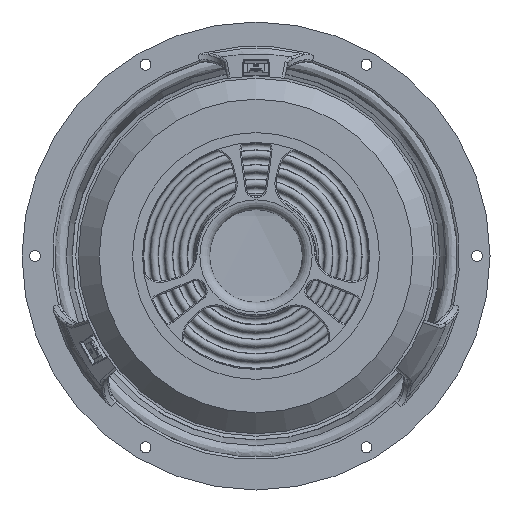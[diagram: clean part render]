
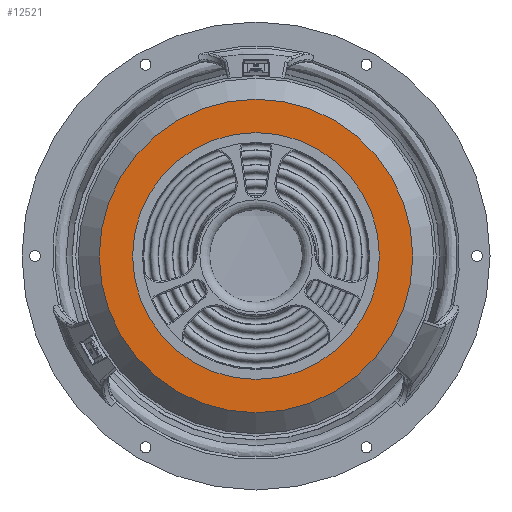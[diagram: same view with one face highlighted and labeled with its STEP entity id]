
A CAD part, front view. The second image highlights one B-rep face of the part: STEP entity #12521.
In plain terms, the highlighted planar face has unit normal (0, -1, 0).
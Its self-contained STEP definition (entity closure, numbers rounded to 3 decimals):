
#1797 = AXIS2_PLACEMENT_3D ( 'NONE', #3504, #5311, #30069 ) ;
#2589 = PLANE ( 'NONE',  #13090 ) ;
#3328 = CARTESIAN_POINT ( 'NONE',  ( 0., -32.5, -50. ) ) ;
#3504 = CARTESIAN_POINT ( 'NONE',  ( 0., -32.5, 0. ) ) ;
#5311 = DIRECTION ( 'NONE',  ( 0., -1., 0. ) ) ;
#5721 = DIRECTION ( 'NONE',  ( 0., -1., 0. ) ) ;
#8180 = EDGE_LOOP ( 'NONE', ( #9323 ) ) ;
#8482 = EDGE_CURVE ( 'NONE', #15600, #15600, #9715, .T. ) ;
#8774 = CARTESIAN_POINT ( 'NONE',  ( 0., -32.5, 0. ) ) ;
#9323 = ORIENTED_EDGE ( 'NONE', *, *, #19458, .F. ) ;
#9715 = CIRCLE ( 'NONE', #1797, 63.5 ) ;
#11808 = FACE_BOUND ( 'NONE', #8180, .T. ) ;
#12521 = ADVANCED_FACE ( 'NONE', ( #34958, #11808 ), #2589, .T. ) ;
#12930 = VERTEX_POINT ( 'NONE', #3328 ) ;
#13090 = AXIS2_PLACEMENT_3D ( 'NONE', #19492, #5721, #13529 ) ;
#13529 = DIRECTION ( 'NONE',  ( 0., 0., -1. ) ) ;
#14587 = EDGE_LOOP ( 'NONE', ( #24768 ) ) ;
#14903 = AXIS2_PLACEMENT_3D ( 'NONE', #8774, #34039, #31121 ) ;
#15600 = VERTEX_POINT ( 'NONE', #19520 ) ;
#19458 = EDGE_CURVE ( 'NONE', #12930, #12930, #35141, .T. ) ;
#19492 = CARTESIAN_POINT ( 'NONE',  ( 50., -32.5, 0. ) ) ;
#19520 = CARTESIAN_POINT ( 'NONE',  ( 0., -32.5, -63.5 ) ) ;
#24768 = ORIENTED_EDGE ( 'NONE', *, *, #8482, .T. ) ;
#30069 = DIRECTION ( 'NONE',  ( 0., 0., -1. ) ) ;
#31121 = DIRECTION ( 'NONE',  ( 0., 0., -1. ) ) ;
#34039 = DIRECTION ( 'NONE',  ( 0., -1., 0. ) ) ;
#34958 = FACE_OUTER_BOUND ( 'NONE', #14587, .T. ) ;
#35141 = CIRCLE ( 'NONE', #14903, 50. ) ;
